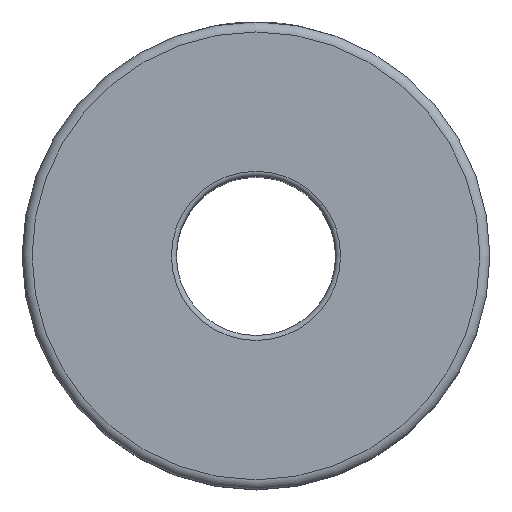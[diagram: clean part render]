
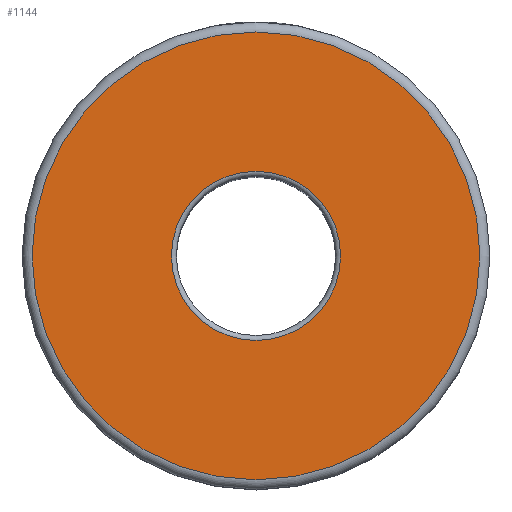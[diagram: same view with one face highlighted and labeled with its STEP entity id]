
A CAD part, top view. The second image highlights one B-rep face of the part: STEP entity #1144.
In plain terms, the highlighted planar face has unit normal (0, 0, 1).
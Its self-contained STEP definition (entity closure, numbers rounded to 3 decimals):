
#35=FACE_BOUND('',#409,.T.);
#235=PLANE('',#1258);
#337=FACE_OUTER_BOUND('',#408,.T.);
#408=EDGE_LOOP('',(#875));
#409=EDGE_LOOP('',(#876));
#497=CIRCLE('',#1254,8.5);
#501=CIRCLE('',#1259,22.5);
#572=VERTEX_POINT('',#2018);
#575=VERTEX_POINT('',#2026);
#689=EDGE_CURVE('',#572,#572,#497,.T.);
#693=EDGE_CURVE('',#575,#575,#501,.T.);
#875=ORIENTED_EDGE('',*,*,#693,.F.);
#876=ORIENTED_EDGE('',*,*,#689,.F.);
#1144=ADVANCED_FACE('',(#337,#35),#235,.T.);
#1254=AXIS2_PLACEMENT_3D('',#2019,#1428,#1429);
#1258=AXIS2_PLACEMENT_3D('',#2025,#1436,#1437);
#1259=AXIS2_PLACEMENT_3D('',#2027,#1438,#1439);
#1428=DIRECTION('center_axis',(0.,0.,1.));
#1429=DIRECTION('ref_axis',(0.,1.,0.));
#1436=DIRECTION('center_axis',(0.,0.,1.));
#1437=DIRECTION('ref_axis',(1.,0.,0.));
#1438=DIRECTION('center_axis',(0.,0.,-1.));
#1439=DIRECTION('ref_axis',(0.,1.,0.));
#2018=CARTESIAN_POINT('',(8.5,0.,0.));
#2019=CARTESIAN_POINT('Origin',(0.,0.,0.));
#2025=CARTESIAN_POINT('Origin',(0.,-23.5,0.));
#2026=CARTESIAN_POINT('',(22.5,0.,0.));
#2027=CARTESIAN_POINT('Origin',(0.,0.,0.));
